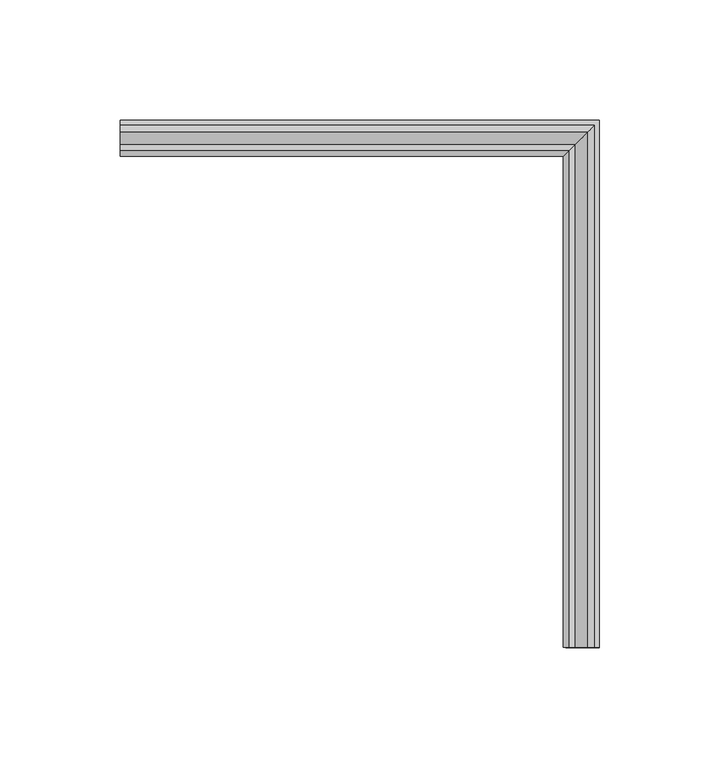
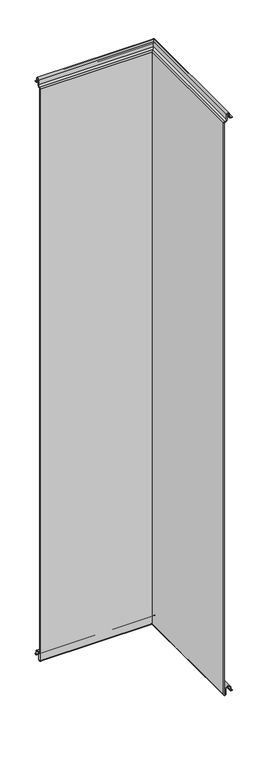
"""IFC4 building model written with IfcOpenShell, lengths in millimetres: plate geometry, Угловой модуль Fronttop : Угловой модуль Fronttop 150/1000."""

from ifc_helpers import new_model, si_unit, frame, origin, place, context, project, spatial, polyline, circle_curve, ellipse_curve, source, transform, mapped, element, save
from ifc_brep_helpers import plane_surface, cylinder_surface, revolved_surface, advanced_brep


def plate_1a5e30ce(model_context):
    return source(origin(), model_context, "Body", "AdvancedBrep", [
        advanced_brep(
        [(-159.5, 13.0, 1001.0), (-159.5, 15.0, 1001.0), (-159.5, 15.0, 1000.0), (-159.5, 13.0, 1000.0), (-159.5, 9.0, 1004.0), (-159.5, 9.0, 1008.0), (-159.5, 6.0, 1008.0), (-159.5, 6.0, 999.5), (-159.5, 2.1134897, 996.0214069), (-159.5, 1.0, 995.0), (-159.5, 1.0, -0.5), (-159.5, 3.0, -0.5), (-159.5, 3.0, 8.0), (-159.5, 12.0, 8.0), (-159.5, 12.0, 4.0), (-159.5, 13.0, 3.0), (-159.5, 15.0, 3.0), (-159.5, 15.0, 2.0), (-159.5, 13.0, 2.0), (-159.5, 11.0, 4.0), (-159.5, 11.0, 8.0), (-159.5, 4.0, 8.0), (-159.5, 4.0, -0.5), (-159.5, 0.0, -0.5), (-159.5, 0.0, 995.0), (-159.5, 2.220863, 996.9877675), (-159.5, 5.0, 999.5), (-159.5, 5.0, 1008.0), (-159.5, 10.0, 1008.0), (-159.5, 10.0, 1004.0), (38.0, 13.0, 1001.0), (38.0, -204.5, 1001.0), (40.0, -204.5, 1001.0), (40.0, 15.0, 1001.0), (40.0, 15.0, 1000.0), (40.0, -204.5, 1000.0), (38.0, -204.5, 1000.0), (38.0, 13.0, 1000.0), (34.0, 9.0, 1004.0), (34.0, 9.0, 1008.0), (31.0, 6.0, 1008.0), (31.0, 6.0, 999.5), (27.1134897, 2.1134897, 996.0214069), (26.0, 1.0, 995.0), (26.0, 1.0, -0.5), (28.0, 3.0, -0.5), (28.0, 3.0, 8.0), (37.0, 12.0, 8.0), (37.0, 12.0, 4.0), (38.0, 13.0, 3.0), (38.0, -204.5, 3.0), (40.0, -204.5, 3.0), (40.0, 15.0, 3.0), (40.0, 15.0, 2.0), (40.0, -204.5, 2.0), (38.0, -204.5, 2.0), (38.0, 13.0, 2.0), (36.0, 11.0, 4.0), (36.0, 11.0, 8.0), (29.0, 4.0, 8.0), (29.0, 4.0, -0.5), (25.0, 0.0, -0.5), (25.0, 0.0, 995.0), (27.220863, 2.220863, 996.9877675), (30.0, 5.0, 999.5), (30.0, 5.0, 1008.0), (35.0, 10.0, 1008.0), (35.0, 10.0, 1004.0), (35.0, -204.5, 1004.0), (35.0, -204.5, 1008.0), (30.0, -204.5, 1008.0), (30.0, -204.5, 999.5), (27.2239212, -204.5, 997.0152907), (25.0, -204.5, 995.0), (25.0, -204.5, -0.5), (29.0, -204.5, -0.5), (29.0, -204.5, 8.0), (36.0, -204.5, 8.0), (36.0, -204.5, 4.0), (37.0, -204.5, 4.0), (37.0, -204.5, 8.0), (28.0, -204.5, 8.0), (28.0, -204.5, -0.5), (26.0, -204.5, -0.5), (26.0, -204.5, 995.0), (27.1104315, -204.5, 995.9938837), (31.0, -204.5, 999.5), (31.0, -204.5, 1008.0), (34.0, -204.5, 1008.0), (34.0, -204.5, 1004.0)],
        [
            (0, 1),
            (1, 2),
            (2, 3),
            (3, 4, circle_curve(frame((-159.5, 13.0, 1004.0), z_axis=(-1.0, 0.0, 0.0), x_axis=(0.0, -1.0, 0.0)), 4.0)),
            (4, 5),
            (5, 6, circle_curve(frame((-159.5, 7.5, 1008.0), z_axis=(1.0, 0.0, 0.0), x_axis=(0.0, -1.0, 0.0)), 1.5)),
            (6, 7),
            (7, 8, circle_curve(frame((-159.5, 2.5, 999.5), z_axis=(-1.0, 0.0, 0.0), x_axis=(0.0, -1.0, 0.0)), 3.5)),
            (8, 9, circle_curve(frame((-159.5, 2.0, 995.0), z_axis=(1.0, 0.0, 0.0), x_axis=(0.0, -1.0, 0.0)), 1.0)),
            (9, 10),
            (10, 11, circle_curve(frame((-159.5, 2.0, -0.5), z_axis=(1.0, 0.0, 0.0), x_axis=(0.0, -1.0, 0.0)), 1.0)),
            (11, 12),
            (12, 13, circle_curve(frame((-159.5, 7.5, 8.0), z_axis=(-1.0, 0.0, 0.0), x_axis=(0.0, -1.0, 0.0)), 4.5)),
            (13, 14),
            (14, 15, circle_curve(frame((-159.5, 13.0, 4.0), z_axis=(1.0, 0.0, 0.0), x_axis=(0.0, -1.0, 0.0)), 1.0)),
            (15, 16),
            (16, 17),
            (17, 18),
            (18, 19, circle_curve(frame((-159.5, 13.0, 4.0), z_axis=(-1.0, 0.0, 0.0), x_axis=(0.0, -1.0, 0.0)), 2.0)),
            (19, 20),
            (20, 21, circle_curve(frame((-159.5, 7.5, 8.0), z_axis=(1.0, 0.0, 0.0), x_axis=(0.0, -1.0, 0.0)), 3.5)),
            (21, 22),
            (22, 23, circle_curve(frame((-159.5, 2.0, -0.5), z_axis=(-1.0, 0.0, 0.0), x_axis=(0.0, -1.0, 0.0)), 2.0)),
            (23, 24),
            (24, 25, circle_curve(frame((-159.5, 2.0, 995.0), z_axis=(-1.0, 0.0, 0.0), x_axis=(0.0, -1.0, 0.0)), 2.0)),
            (25, 26, circle_curve(frame((-159.5, 2.5, 999.5), z_axis=(1.0, 0.0, 0.0), x_axis=(0.0, -1.0, 0.0)), 2.5)),
            (26, 27),
            (27, 28, circle_curve(frame((-159.5, 7.5, 1008.0), z_axis=(-1.0, 0.0, 0.0), x_axis=(0.0, -1.0, 0.0)), 2.5)),
            (28, 29),
            (29, 0, circle_curve(frame((-159.5, 13.0, 1004.0), z_axis=(1.0, 0.0, 0.0), x_axis=(0.0, -1.0, 0.0)), 3.0)),
            (0, 30),
            (30, 31),
            (31, 32),
            (32, 33),
            (33, 1),
            (33, 34),
            (34, 2),
            (34, 35),
            (35, 36),
            (36, 37),
            (37, 3),
            (37, 38, ellipse_curve(frame((38.0, 13.0, 1004.0), z_axis=(-0.7071067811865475, 0.7071067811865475, 0.0), x_axis=(-0.7071067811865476, -0.7071067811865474, 0.0)), 5.6568542, 4.0)),
            (38, 4),
            (38, 39),
            (39, 5),
            (39, 40, ellipse_curve(frame((32.5, 7.5, 1008.0), z_axis=(0.7071067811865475, -0.7071067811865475, 0.0), x_axis=(0.7071067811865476, 0.7071067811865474, 0.0)), 2.1213204, 1.5)),
            (40, 6),
            (40, 41),
            (41, 7),
            (41, 42, ellipse_curve(frame((27.5, 2.5, 999.5), z_axis=(-0.7071067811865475, 0.7071067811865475, 0.0), x_axis=(-0.7071067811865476, -0.7071067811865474, 0.0)), 4.9497475, 3.5)),
            (42, 8),
            (42, 43, ellipse_curve(frame((27.0, 2.0, 995.0), z_axis=(0.7071067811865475, -0.7071067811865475, 0.0), x_axis=(0.7071067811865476, 0.7071067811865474, 0.0)), 1.4142136, 1.0)),
            (43, 9),
            (43, 44),
            (44, 10),
            (44, 45, ellipse_curve(frame((27.0, 2.0, -0.5), z_axis=(0.7071067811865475, -0.7071067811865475, 0.0), x_axis=(0.7071067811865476, 0.7071067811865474, 0.0)), 1.4142136, 1.0)),
            (45, 11),
            (45, 46),
            (46, 12),
            (46, 47, ellipse_curve(frame((32.5, 7.5, 8.0), z_axis=(-0.7071067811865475, 0.7071067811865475, 0.0), x_axis=(-0.7071067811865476, -0.7071067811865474, 0.0)), 6.363961, 4.5)),
            (47, 13),
            (47, 48),
            (48, 14),
            (48, 49, ellipse_curve(frame((38.0, 13.0, 4.0), z_axis=(0.7071067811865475, -0.7071067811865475, 0.0), x_axis=(0.7071067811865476, 0.7071067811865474, 0.0)), 1.4142136, 1.0)),
            (49, 15),
            (49, 50),
            (50, 51),
            (51, 52),
            (52, 16),
            (52, 53),
            (53, 17),
            (53, 54),
            (54, 55),
            (55, 56),
            (56, 18),
            (56, 57, ellipse_curve(frame((38.0, 13.0, 4.0), z_axis=(-0.7071067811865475, 0.7071067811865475, 0.0), x_axis=(-0.7071067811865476, -0.7071067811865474, 0.0)), 2.8284271, 2.0)),
            (57, 19),
            (57, 58),
            (58, 20),
            (58, 59, ellipse_curve(frame((32.5, 7.5, 8.0), z_axis=(0.7071067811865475, -0.7071067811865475, 0.0), x_axis=(0.7071067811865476, 0.7071067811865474, 0.0)), 4.9497475, 3.5)),
            (59, 21),
            (59, 60),
            (60, 22),
            (60, 61, ellipse_curve(frame((27.0, 2.0, -0.5), z_axis=(-0.7071067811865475, 0.7071067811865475, 0.0), x_axis=(-0.7071067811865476, -0.7071067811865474, 0.0)), 2.8284271, 2.0)),
            (61, 23),
            (61, 62),
            (62, 24),
            (62, 63, ellipse_curve(frame((27.0, 2.0, 995.0), z_axis=(-0.7071067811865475, 0.7071067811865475, 0.0), x_axis=(-0.7071067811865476, -0.7071067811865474, 0.0)), 2.8284271, 2.0)),
            (63, 25),
            (63, 64, ellipse_curve(frame((27.5, 2.5, 999.5), z_axis=(0.7071067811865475, -0.7071067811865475, 0.0), x_axis=(0.7071067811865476, 0.7071067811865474, 0.0)), 3.5355339, 2.5)),
            (64, 26),
            (64, 65),
            (65, 27),
            (65, 66, ellipse_curve(frame((32.5, 7.5, 1008.0), z_axis=(-0.7071067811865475, 0.7071067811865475, 0.0), x_axis=(-0.7071067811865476, -0.7071067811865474, 0.0)), 3.5355339, 2.5)),
            (66, 28),
            (66, 67),
            (67, 29),
            (67, 30, ellipse_curve(frame((38.0, 13.0, 1004.0), z_axis=(0.7071067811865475, -0.7071067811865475, 0.0), x_axis=(0.7071067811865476, 0.7071067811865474, 0.0)), 4.2426407, 3.0)),
            (31, 68, circle_curve(frame((38.0, -204.5, 1004.0), z_axis=(0.0, 1.0, 0.0), x_axis=(-1.0, 0.0, 0.0)), 3.0)),
            (68, 69),
            (69, 70, circle_curve(frame((32.5, -204.5, 1008.0), z_axis=(0.0, -1.0, 0.0), x_axis=(-1.0, 0.0, 0.0)), 2.5)),
            (70, 71),
            (71, 72, circle_curve(frame((27.5, -204.5, 999.5), z_axis=(0.0, 1.0, 0.0), x_axis=(-1.0, 0.0, 0.0)), 2.5)),
            (72, 73, circle_curve(frame((27.0, -204.5, 995.0), z_axis=(0.0, -1.0, 0.0), x_axis=(-1.0, 0.0, 0.0)), 2.0)),
            (73, 74),
            (74, 75, circle_curve(frame((27.0, -204.5, -0.5), z_axis=(0.0, -1.0, 0.0), x_axis=(-1.0, 0.0, 0.0)), 2.0)),
            (75, 76),
            (76, 77, circle_curve(frame((32.5, -204.5, 8.0), z_axis=(0.0, 1.0, 0.0), x_axis=(-1.0, 0.0, 0.0)), 3.5)),
            (77, 78),
            (78, 55, circle_curve(frame((38.0, -204.5, 4.0), z_axis=(0.0, -1.0, 0.0), x_axis=(-1.0, 0.0, 0.0)), 2.0)),
            (54, 51),
            (50, 79, circle_curve(frame((38.0, -204.5, 4.0), z_axis=(0.0, 1.0, 0.0), x_axis=(-1.0, 0.0, 0.0)), 1.0)),
            (79, 80),
            (80, 81, circle_curve(frame((32.5, -204.5, 8.0), z_axis=(0.0, -1.0, 0.0), x_axis=(-1.0, 0.0, 0.0)), 4.5)),
            (81, 82),
            (82, 83, circle_curve(frame((27.0, -204.5, -0.5), z_axis=(0.0, 1.0, 0.0), x_axis=(-1.0, 0.0, 0.0)), 1.0)),
            (83, 84),
            (84, 85, circle_curve(frame((27.0, -204.5, 995.0), z_axis=(0.0, 1.0, 0.0), x_axis=(-1.0, 0.0, 0.0)), 1.0)),
            (85, 86, circle_curve(frame((27.5, -204.5, 999.5), z_axis=(0.0, -1.0, 0.0), x_axis=(-1.0, 0.0, 0.0)), 3.5)),
            (86, 87),
            (87, 88, circle_curve(frame((32.5, -204.5, 1008.0), z_axis=(0.0, 1.0, 0.0), x_axis=(-1.0, 0.0, 0.0)), 1.5)),
            (88, 89),
            (89, 36, circle_curve(frame((38.0, -204.5, 1004.0), z_axis=(0.0, -1.0, 0.0), x_axis=(-1.0, 0.0, 0.0)), 4.0)),
            (35, 32),
            (89, 38),
            (88, 39),
            (87, 40),
            (86, 41),
            (85, 42),
            (84, 43),
            (83, 44),
            (82, 45),
            (81, 46),
            (80, 47),
            (79, 48),
            (78, 57),
            (77, 58),
            (76, 59),
            (75, 60),
            (74, 61),
            (73, 62),
            (72, 63),
            (71, 64),
            (70, 65),
            (69, 66),
            (68, 67),
        ],
        [
            plane_surface(frame((-159.5, 0.0, 0.0), z_axis=(-1.0, 0.0, 0.0), x_axis=(0.0, 0.0, 1.0))),
            plane_surface(frame((-159.5, 13.0, 1001.0), z_axis=(0.0, 0.0, 1.0), x_axis=(1.0, 0.0, 0.0))),
            plane_surface(frame((-159.5, 15.0, 1001.0), z_axis=(0.0, 1.0, 0.0), x_axis=(1.0, 0.0, 0.0))),
            plane_surface(frame((-159.5, 15.0, 1000.0), z_axis=(0.0, 0.0, -1.0), x_axis=(1.0, 0.0, 0.0))),
            cylinder_surface(frame((-159.5, 13.0, 1004.0), z_axis=(-1.0, 0.0, 0.0), x_axis=(0.0, -1.0, 0.0)), 4.0),
            plane_surface(frame((-159.5, 9.0, 1004.0), z_axis=(0.0, -1.0, 0.0), x_axis=(1.0, 0.0, 0.0))),
            revolved_surface(polyline([(34.00000003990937, 6.0, 1008.0), (-159.5, 6.0, 1008.0)]), (-159.5, 7.5, 1008.0), (1.0, 0.0, 0.0)),
            plane_surface(frame((-159.5, 6.0, 1008.0), z_axis=(0.0, 1.0, 0.0), x_axis=(1.0, 0.0, 0.0))),
            cylinder_surface(frame((-159.5, 2.5, 999.5), z_axis=(-1.0, 0.0, 0.0), x_axis=(0.0, -1.0, 0.0)), 3.5),
            revolved_surface(polyline([(28.000000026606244, 1.0, 995.0), (-159.5, 1.0, 995.0)]), (-159.5, 2.0, 995.0), (1.0, 0.0, 0.0)),
            plane_surface(frame((-159.5, 1.0, 995.0), z_axis=(0.0, 1.0, 0.0), x_axis=(1.0, 0.0, 0.0))),
            revolved_surface(polyline([(28.000000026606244, 1.0, -0.5), (-159.5, 1.0, -0.5)]), (-159.5, 2.0, -0.5), (1.0, 0.0, 0.0)),
            plane_surface(frame((-159.5, 3.0, -0.5), z_axis=(0.0, -1.0, 0.0), x_axis=(1.0, 0.0, 0.0))),
            cylinder_surface(frame((-159.5, 7.5, 8.0), z_axis=(-1.0, 0.0, 0.0), x_axis=(0.0, -1.0, 0.0)), 4.5),
            plane_surface(frame((-159.5, 12.0, 8.0), z_axis=(0.0, 1.0, 0.0), x_axis=(1.0, 0.0, 0.0))),
            revolved_surface(polyline([(39.000000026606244, 12.0, 4.0), (-159.5, 12.0, 4.0)]), (-159.5, 13.0, 4.0), (1.0, 0.0, 0.0)),
            plane_surface(frame((-159.5, 13.0, 3.0), z_axis=(0.0, 0.0, 1.0), x_axis=(1.0, 0.0, 0.0))),
            plane_surface(frame((-159.5, 15.0, 3.0), z_axis=(0.0, 1.0, 0.0), x_axis=(1.0, 0.0, 0.0))),
            plane_surface(frame((-159.5, 15.0, 2.0), z_axis=(0.0, 0.0, -1.0), x_axis=(1.0, 0.0, 0.0))),
            cylinder_surface(frame((-159.5, 13.0, 4.0), z_axis=(-1.0, 0.0, 0.0), x_axis=(0.0, -1.0, 0.0)), 2.0),
            plane_surface(frame((-159.5, 11.0, 4.0), z_axis=(0.0, -1.0, 0.0), x_axis=(1.0, 0.0, 0.0))),
            revolved_surface(polyline([(36.00000002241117, 4.0, 8.0), (-159.5, 4.0, 8.0)]), (-159.5, 7.5, 8.0), (1.0, 0.0, 0.0)),
            plane_surface(frame((-159.5, 4.0, 8.0), z_axis=(0.0, 1.0, 0.0), x_axis=(1.0, 0.0, 0.0))),
            cylinder_surface(frame((-159.5, 2.0, -0.5), z_axis=(-1.0, 0.0, 0.0), x_axis=(0.0, -1.0, 0.0)), 2.0),
            plane_surface(frame((-159.5, 0.0, -0.5), z_axis=(0.0, -1.0, 0.0), x_axis=(1.0, 0.0, 0.0))),
            cylinder_surface(frame((-159.5, 2.0, 995.0), z_axis=(-1.0, 0.0, 0.0), x_axis=(0.0, -1.0, 0.0)), 2.0),
            revolved_surface(polyline([(30.0, 0.0, 999.5), (-159.5, 0.0, 999.5)]), (-159.5, 2.5, 999.5), (1.0, 0.0, 0.0)),
            plane_surface(frame((-159.5, 5.0, 999.5), z_axis=(0.0, -1.0, 0.0), x_axis=(1.0, 0.0, 0.0))),
            cylinder_surface(frame((-159.5, 7.5, 1008.0), z_axis=(-1.0, 0.0, 0.0), x_axis=(0.0, -1.0, 0.0)), 2.5),
            plane_surface(frame((-159.5, 10.0, 1008.0), z_axis=(0.0, 1.0, 0.0), x_axis=(1.0, 0.0, 0.0))),
            revolved_surface(polyline([(41.00000000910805, 10.0, 1004.0), (-159.5, 10.0, 1004.0)]), (-159.5, 13.0, 1004.0), (1.0, 0.0, 0.0)),
            plane_surface(frame((25.0, -204.5, 0.0), z_axis=(0.0, -1.0, 0.0), x_axis=(0.0, 0.0, 1.0))),
            plane_surface(frame((40.0, 15.0, 1001.0), z_axis=(1.0, 0.0, 0.0), x_axis=(0.0, -1.0, 0.0))),
            cylinder_surface(frame((38.0, 0.0, 1004.0), z_axis=(0.0, 1.0, 0.0), x_axis=(-1.0, 0.0, 0.0)), 4.0),
            plane_surface(frame((34.0, 9.0, 1004.0), z_axis=(-1.0, 0.0, 0.0), x_axis=(0.0, -1.0, 0.0))),
            revolved_surface(polyline([(31.0, -204.5, 1008.0), (31.0, 9.00000003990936, 1008.0)]), (32.5, 0.0, 1008.0), (0.0, -1.0, 0.0)),
            plane_surface(frame((31.0, 6.0, 1008.0), z_axis=(1.0, 0.0, 0.0), x_axis=(0.0, -1.0, 0.0))),
            cylinder_surface(frame((27.5, 0.0, 999.5), z_axis=(0.0, 1.0, 0.0), x_axis=(-1.0, 0.0, 0.0)), 3.5),
            revolved_surface(polyline([(26.0, -204.5, 995.0), (26.0, 3.0000000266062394, 995.0)]), (27.0, 0.0, 995.0), (0.0, -1.0, 0.0)),
            plane_surface(frame((26.0, 1.0, 995.0), z_axis=(1.0, 0.0, 0.0), x_axis=(0.0, -1.0, 0.0))),
            revolved_surface(polyline([(26.0, -204.5, -0.5), (26.0, 3.0000000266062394, -0.5)]), (27.0, 0.0, -0.5), (0.0, -1.0, 0.0)),
            plane_surface(frame((28.0, 3.0, -0.5), z_axis=(-1.0, 0.0, 0.0), x_axis=(0.0, -1.0, 0.0))),
            cylinder_surface(frame((32.5, 0.0, 8.0), z_axis=(0.0, 1.0, 0.0), x_axis=(-1.0, 0.0, 0.0)), 4.5),
            plane_surface(frame((37.0, 12.0, 8.0), z_axis=(1.0, 0.0, 0.0), x_axis=(0.0, -1.0, 0.0))),
            revolved_surface(polyline([(37.0, -204.5, 4.0), (37.0, 14.000000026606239, 4.0)]), (38.0, 0.0, 4.0), (0.0, -1.0, 0.0)),
            plane_surface(frame((40.0, 15.0, 3.0), z_axis=(1.0, 0.0, 0.0), x_axis=(0.0, -1.0, 0.0))),
            cylinder_surface(frame((38.0, 0.0, 4.0), z_axis=(0.0, 1.0, 0.0), x_axis=(-1.0, 0.0, 0.0)), 2.0),
            plane_surface(frame((36.0, 11.0, 4.0), z_axis=(-1.0, 0.0, 0.0), x_axis=(0.0, -1.0, 0.0))),
            revolved_surface(polyline([(29.0, -204.5, 8.0), (29.0, 11.00000002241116, 8.0)]), (32.5, 0.0, 8.0), (0.0, -1.0, 0.0)),
            plane_surface(frame((29.0, 4.0, 8.0), z_axis=(1.0, 0.0, 0.0), x_axis=(0.0, -1.0, 0.0))),
            cylinder_surface(frame((27.0, 0.0, -0.5), z_axis=(0.0, 1.0, 0.0), x_axis=(-1.0, 0.0, 0.0)), 2.0),
            plane_surface(frame((25.0, 0.0, -0.5), z_axis=(-1.0, 0.0, 0.0), x_axis=(0.0, -1.0, 0.0))),
            cylinder_surface(frame((27.0, 0.0, 995.0), z_axis=(0.0, 1.0, 0.0), x_axis=(-1.0, 0.0, 0.0)), 2.0),
            revolved_surface(polyline([(25.0, -204.5, 999.5), (25.0, 5.0, 999.5)]), (27.5, 0.0, 999.5), (0.0, -1.0, 0.0)),
            plane_surface(frame((30.0, 5.0, 999.5), z_axis=(-1.0, 0.0, 0.0), x_axis=(0.0, -1.0, 0.0))),
            cylinder_surface(frame((32.5, 0.0, 1008.0), z_axis=(0.0, 1.0, 0.0), x_axis=(-1.0, 0.0, 0.0)), 2.5),
            plane_surface(frame((35.0, 10.0, 1008.0), z_axis=(1.0, 0.0, 0.0), x_axis=(0.0, -1.0, 0.0))),
            revolved_surface(polyline([(35.0, -204.5, 1004.0), (35.0, 16.00000000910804, 1004.0)]), (38.0, 0.0, 1004.0), (0.0, -1.0, 0.0)),
        ],
        [
            (0, [[1, 2, 3, 4, 5, 6, 7, 8, 9, 10, 11, 12, 13, 14, 15, 16, 17, 18, 19, 20, 21, 22, 23, 24, 25, 26, 27, 28, 29, 30]]),
            (1, [[-1, 31, 32, 33, 34, 35]]),
            (2, [[-2, -35, 36, 37]]),
            (3, [[-3, -37, 38, 39, 40, 41]]),
            (4, [[-4, -41, 42, 43]]),
            (5, [[-5, -43, 44, 45]]),
            (6, [[-6, -45, 46, 47]]),
            (7, [[-7, -47, 48, 49]]),
            (8, [[-8, -49, 50, 51]]),
            (9, [[-9, -51, 52, 53]]),
            (10, [[-10, -53, 54, 55]]),
            (11, [[-11, -55, 56, 57]]),
            (12, [[-12, -57, 58, 59]]),
            (13, [[-13, -59, 60, 61]]),
            (14, [[-14, -61, 62, 63]]),
            (15, [[-15, -63, 64, 65]]),
            (16, [[-16, -65, 66, 67, 68, 69]]),
            (17, [[-17, -69, 70, 71]]),
            (18, [[-18, -71, 72, 73, 74, 75]]),
            (19, [[-19, -75, 76, 77]]),
            (20, [[-20, -77, 78, 79]]),
            (21, [[-21, -79, 80, 81]]),
            (22, [[-22, -81, 82, 83]]),
            (23, [[-23, -83, 84, 85]]),
            (24, [[-24, -85, 86, 87]]),
            (25, [[-25, -87, 88, 89]]),
            (26, [[-26, -89, 90, 91]]),
            (27, [[-27, -91, 92, 93]]),
            (28, [[-28, -93, 94, 95]]),
            (29, [[-29, -95, 96, 97]]),
            (30, [[-30, -97, 98, -31]]),
            (31, [[99, 100, 101, 102, 103, 104, 105, 106, 107, 108, 109, 110, -73, 111, -67, 112, 113, 114, 115, 116, 117, 118, 119, 120, 121, 122, 123, -39, 124, -33]]),
            (32, [[-36, -34, -124, -38]]),
            (33, [[-42, -40, -123, 125]]),
            (34, [[-44, -125, -122, 126]]),
            (35, [[-46, -126, -121, 127]]),
            (36, [[-48, -127, -120, 128]]),
            (37, [[-50, -128, -119, 129]]),
            (38, [[-52, -129, -118, 130]]),
            (39, [[-54, -130, -117, 131]]),
            (40, [[-56, -131, -116, 132]]),
            (41, [[-58, -132, -115, 133]]),
            (42, [[-60, -133, -114, 134]]),
            (43, [[-62, -134, -113, 135]]),
            (44, [[-64, -135, -112, -66]]),
            (45, [[-70, -68, -111, -72]]),
            (46, [[-76, -74, -110, 136]]),
            (47, [[-78, -136, -109, 137]]),
            (48, [[-80, -137, -108, 138]]),
            (49, [[-82, -138, -107, 139]]),
            (50, [[-84, -139, -106, 140]]),
            (51, [[-86, -140, -105, 141]]),
            (52, [[-88, -141, -104, 142]]),
            (53, [[-90, -142, -103, 143]]),
            (54, [[-92, -143, -102, 144]]),
            (55, [[-94, -144, -101, 145]]),
            (56, [[-96, -145, -100, 146]]),
            (57, [[-98, -146, -99, -32]]),
        ],
    ),
    ])


if __name__ == "__main__":
    model = new_model("IFC4")
    model_context = context("Model", 3, world=origin())
    ifc_project = project(units=[si_unit("LENGTHUNIT", "METRE", prefix="MILLI")], contexts=[model_context])
    site = spatial("IfcSite", under=ifc_project)
    building = spatial("IfcBuilding", under=site)
    placement = place(None, origin())
    plate_shape = plate_1a5e30ce(model_context)
    element("IfcPlate", 1, ObjectType="Угловой модуль Fronttop : Угловой модуль Fronttop 150/1000", at=placement, inside=building, context=model_context, shape_type="MappedRepresentation", body=[
        mapped(plate_shape, transform((0.0, 0.0, 0.0), x_axis=(1.0, 0.0, 0.0), y_axis=(0.0, 1.0, 0.0), z_axis=(0.0, 0.0, 1.0))),
    ])
    save(model, "model.ifc")
